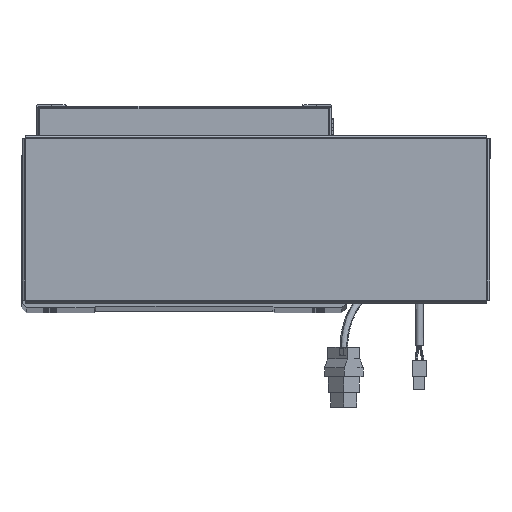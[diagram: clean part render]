
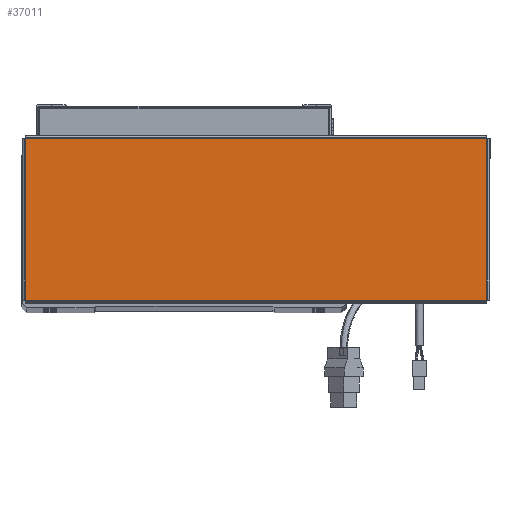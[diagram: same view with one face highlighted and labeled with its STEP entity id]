
A CAD part, top view. The second image highlights one B-rep face of the part: STEP entity #37011.
In plain terms, the highlighted planar face has unit normal (0, 0, 1).
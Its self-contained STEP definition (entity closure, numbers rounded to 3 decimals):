
#3820 = EDGE_CURVE ( 'NONE', #15676, #63218, #26436, .T. ) ;
#4117 = EDGE_CURVE ( 'NONE', #27866, #34598, #63731, .T. ) ;
#5749 = EDGE_LOOP ( 'NONE', ( #17283, #31764, #70422, #54322 ) ) ;
#7344 = CARTESIAN_POINT ( 'NONE',  ( -156.513, 54.793, 0. ) ) ;
#9947 = CARTESIAN_POINT ( 'NONE',  ( -156.513, 54.763, 0. ) ) ;
#10185 = CARTESIAN_POINT ( 'NONE',  ( 156.513, -54.763, 0. ) ) ;
#12824 = VECTOR ( 'NONE', #17025, 1000. ) ;
#14929 = CARTESIAN_POINT ( 'NONE',  ( -156.543, -54.763, 0. ) ) ;
#14959 = PLANE ( 'NONE',  #53395 ) ;
#15676 = VERTEX_POINT ( 'NONE', #46439 ) ;
#16140 = DIRECTION ( 'NONE',  ( 0., 1., 0. ) ) ;
#17025 = DIRECTION ( 'NONE',  ( 1., 0., 0. ) ) ;
#17283 = ORIENTED_EDGE ( 'NONE', *, *, #4117, .T. ) ;
#21823 = CARTESIAN_POINT ( 'NONE',  ( 0., 0., 0. ) ) ;
#24358 = VECTOR ( 'NONE', #55492, 1000. ) ;
#26436 = LINE ( 'NONE', #45776, #43363 ) ;
#27866 = VERTEX_POINT ( 'NONE', #46951 ) ;
#31764 = ORIENTED_EDGE ( 'NONE', *, *, #45533, .T. ) ;
#34598 = VERTEX_POINT ( 'NONE', #10185 ) ;
#37011 = ADVANCED_FACE ( 'NONE', ( #67385 ), #14959, .T. ) ;
#38866 = DIRECTION ( 'NONE',  ( 0., 0., 1. ) ) ;
#43363 = VECTOR ( 'NONE', #61912, 1000. ) ;
#43444 = LINE ( 'NONE', #54308, #63003 ) ;
#45533 = EDGE_CURVE ( 'NONE', #34598, #15676, #43444, .T. ) ;
#45577 = LINE ( 'NONE', #7344, #24358 ) ;
#45776 = CARTESIAN_POINT ( 'NONE',  ( 156.543, 54.763, 0. ) ) ;
#46439 = CARTESIAN_POINT ( 'NONE',  ( 156.513, 54.763, 0. ) ) ;
#46951 = CARTESIAN_POINT ( 'NONE',  ( -156.513, -54.763, 0. ) ) ;
#50242 = EDGE_CURVE ( 'NONE', #63218, #27866, #45577, .T. ) ;
#53395 = AXIS2_PLACEMENT_3D ( 'NONE', #21823, #38866, #60438 ) ;
#54308 = CARTESIAN_POINT ( 'NONE',  ( 156.513, -54.793, 0. ) ) ;
#54322 = ORIENTED_EDGE ( 'NONE', *, *, #50242, .T. ) ;
#55492 = DIRECTION ( 'NONE',  ( 0., -1., 0. ) ) ;
#60438 = DIRECTION ( 'NONE',  ( 1., 0., 0. ) ) ;
#61912 = DIRECTION ( 'NONE',  ( -1., 0., 0. ) ) ;
#63003 = VECTOR ( 'NONE', #16140, 1000. ) ;
#63218 = VERTEX_POINT ( 'NONE', #9947 ) ;
#63731 = LINE ( 'NONE', #14929, #12824 ) ;
#67385 = FACE_OUTER_BOUND ( 'NONE', #5749, .T. ) ;
#70422 = ORIENTED_EDGE ( 'NONE', *, *, #3820, .T. ) ;
